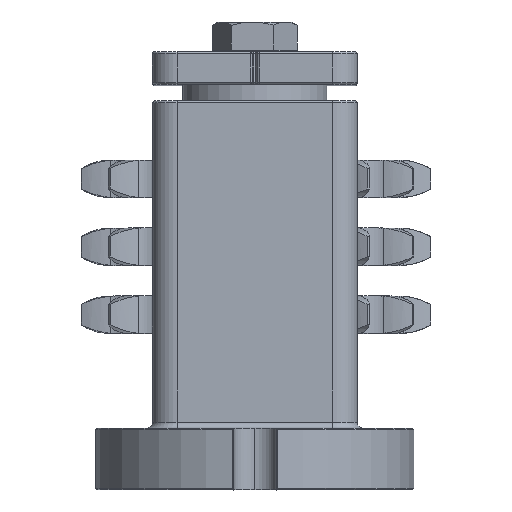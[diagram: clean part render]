
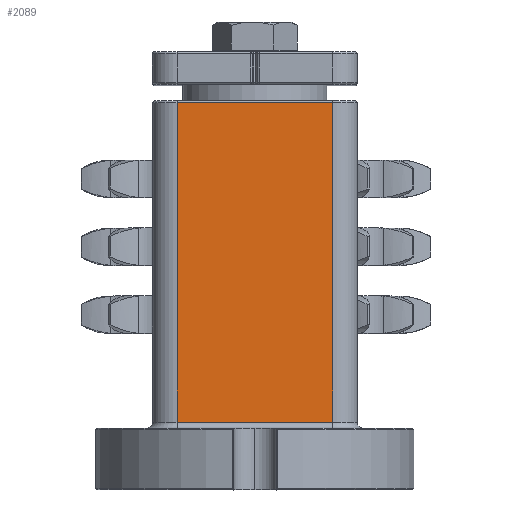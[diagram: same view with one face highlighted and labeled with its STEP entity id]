
A CAD part, top view. The second image highlights one B-rep face of the part: STEP entity #2089.
In plain terms, the highlighted planar face has unit normal (0, 0, 1).
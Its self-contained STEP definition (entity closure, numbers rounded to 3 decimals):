
#688 = CARTESIAN_POINT ( 'NONE',  ( -19., 16.5, 25. ) ) ;
#1506 = DIRECTION ( 'NONE',  ( -1., 0., 0. ) ) ;
#1632 = CARTESIAN_POINT ( 'NONE',  ( -19., 16.5, 25. ) ) ;
#1795 = EDGE_CURVE ( 'NONE', #11249, #4454, #5180, .T. ) ;
#1871 = EDGE_CURVE ( 'NONE', #4730, #9261, #11235, .T. ) ;
#1930 = EDGE_LOOP ( 'NONE', ( #5697, #9812, #11712, #10886 ) ) ;
#2089 = ADVANCED_FACE ( 'NONE', ( #6255 ), #8527, .F. ) ;
#3129 = VECTOR ( 'NONE', #5218, 1000. ) ;
#4454 = VERTEX_POINT ( 'NONE', #12046 ) ;
#4691 = EDGE_CURVE ( 'NONE', #11249, #4730, #7652, .T. ) ;
#4730 = VERTEX_POINT ( 'NONE', #10441 ) ;
#5050 = DIRECTION ( 'NONE',  ( 0., -1., 0. ) ) ;
#5180 = LINE ( 'NONE', #8118, #3129 ) ;
#5218 = DIRECTION ( 'NONE',  ( 0., -1., 0. ) ) ;
#5292 = AXIS2_PLACEMENT_3D ( 'NONE', #8567, #11550, #1506 ) ;
#5697 = ORIENTED_EDGE ( 'NONE', *, *, #1871, .T. ) ;
#5840 = CARTESIAN_POINT ( 'NONE',  ( 19., 94.5, 25. ) ) ;
#5870 = DIRECTION ( 'NONE',  ( 1., 0., 0. ) ) ;
#6255 = FACE_OUTER_BOUND ( 'NONE', #1930, .T. ) ;
#6324 = CARTESIAN_POINT ( 'NONE',  ( -19., 94.5, 25. ) ) ;
#6608 = VECTOR ( 'NONE', #7492, 1000. ) ;
#7492 = DIRECTION ( 'NONE',  ( -1., 0., 0. ) ) ;
#7504 = VECTOR ( 'NONE', #5050, 1000. ) ;
#7652 = LINE ( 'NONE', #6324, #6608 ) ;
#8118 = CARTESIAN_POINT ( 'NONE',  ( 19., 95., 25. ) ) ;
#8527 = PLANE ( 'NONE',  #5292 ) ;
#8567 = CARTESIAN_POINT ( 'NONE',  ( -19., 95., 25. ) ) ;
#8650 = EDGE_CURVE ( 'NONE', #9261, #4454, #10112, .T. ) ;
#9117 = CARTESIAN_POINT ( 'NONE',  ( -19., 95., 25. ) ) ;
#9261 = VERTEX_POINT ( 'NONE', #1632 ) ;
#9354 = VECTOR ( 'NONE', #5870, 1000. ) ;
#9812 = ORIENTED_EDGE ( 'NONE', *, *, #8650, .T. ) ;
#10112 = LINE ( 'NONE', #688, #9354 ) ;
#10441 = CARTESIAN_POINT ( 'NONE',  ( -19., 94.5, 25. ) ) ;
#10886 = ORIENTED_EDGE ( 'NONE', *, *, #4691, .T. ) ;
#11235 = LINE ( 'NONE', #9117, #7504 ) ;
#11249 = VERTEX_POINT ( 'NONE', #5840 ) ;
#11550 = DIRECTION ( 'NONE',  ( 0., 0., -1. ) ) ;
#11712 = ORIENTED_EDGE ( 'NONE', *, *, #1795, .F. ) ;
#12046 = CARTESIAN_POINT ( 'NONE',  ( 19., 16.5, 25. ) ) ;
